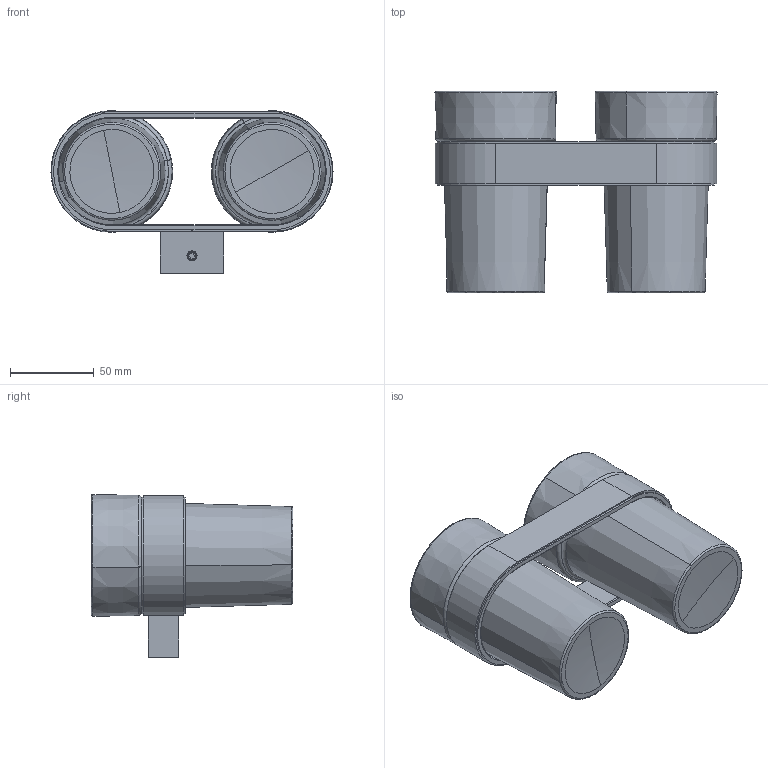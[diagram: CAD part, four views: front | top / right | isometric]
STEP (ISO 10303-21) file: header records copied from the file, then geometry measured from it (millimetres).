
FILE_DESCRIPTION (( 'STEP AP203' ), '1' );
FILE_NAME ('2715-28019A-00-00.STEP', '2022-07-07T02:38:22', ( 'Windows User' ), ( 'P R C' ), 'SwSTEP 2.0', 'SolidWorks 2015', '' );
FILE_SCHEMA (( 'CONFIG_CONTROL_DESIGN' ));
Length unit declared in the file: millimetre
Products named in the file (1): 2715-28019A-00-00
Bounding box: 168 x 120 x 97.01 mm (x, y, z)
Surface area: 127138.1 mm2 (no closed solid volume)
Topology: 0 solids, 7 shells, 156 faces, 446 edges, 302 vertices
Faces by surface type: plane 50, cylinder 36, torus 30, cone 20, bspline 16, sphere 4
Entity records: 5245 total; most frequent: CARTESIAN_POINT 1249, DIRECTION 862, ORIENTED_EDGE 732, EDGE_CURVE 446, AXIS2_PLACEMENT_3D 331, VERTEX_POINT 302, VECTOR 200, LINE 200
